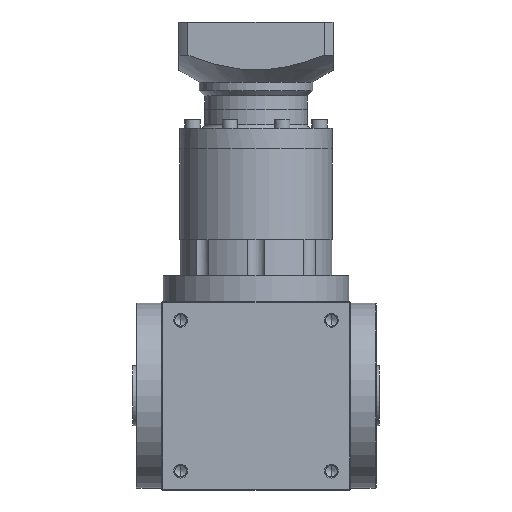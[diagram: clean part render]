
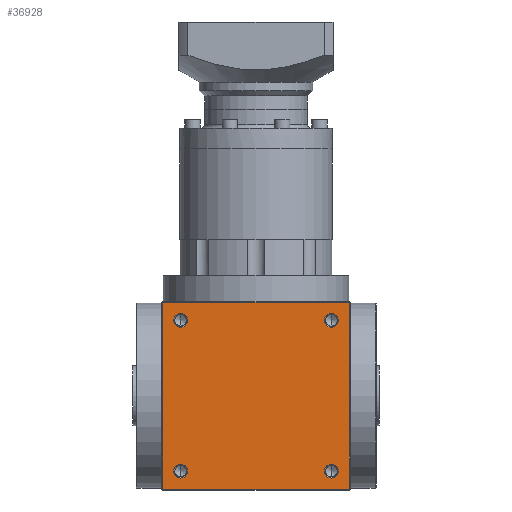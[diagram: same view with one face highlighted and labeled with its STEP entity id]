
A CAD part, front view. The second image highlights one B-rep face of the part: STEP entity #36928.
In plain terms, the highlighted planar face has unit normal (0, -1, 0).
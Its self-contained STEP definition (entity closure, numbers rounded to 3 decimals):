
#596 = VERTEX_POINT ( 'NONE', #33227 ) ;
#1373 = ORIENTED_EDGE ( 'NONE', *, *, #8380, .F. ) ;
#2115 = DIRECTION ( 'NONE',  ( 1., 0., 0. ) ) ;
#2199 = CARTESIAN_POINT ( 'NONE',  ( -44., -55., 11. ) ) ;
#2972 = CARTESIAN_POINT ( 'NONE',  ( 44., -55., 99. ) ) ;
#4351 = ORIENTED_EDGE ( 'NONE', *, *, #46008, .F. ) ;
#4616 = VERTEX_POINT ( 'NONE', #9927 ) ;
#4798 = CARTESIAN_POINT ( 'NONE',  ( 44., -55., 11. ) ) ;
#5175 = ORIENTED_EDGE ( 'NONE', *, *, #20689, .F. ) ;
#5972 = CIRCLE ( 'NONE', #22772, 4.025 ) ;
#6345 = CIRCLE ( 'NONE', #12029, 4.025 ) ;
#6417 = CARTESIAN_POINT ( 'NONE',  ( 48.025, -55., 99. ) ) ;
#6477 = DIRECTION ( 'NONE',  ( 1., 0., 0. ) ) ;
#6879 = LINE ( 'NONE', #42906, #16834 ) ;
#6988 = VERTEX_POINT ( 'NONE', #22325 ) ;
#7269 = DIRECTION ( 'NONE',  ( 1., 0., 0. ) ) ;
#7281 = EDGE_LOOP ( 'NONE', ( #14550, #52084 ) ) ;
#7447 = DIRECTION ( 'NONE',  ( 0., 0., 1. ) ) ;
#8109 = ORIENTED_EDGE ( 'NONE', *, *, #25065, .F. ) ;
#8380 = EDGE_CURVE ( 'NONE', #54054, #26745, #31153, .T. ) ;
#9083 = DIRECTION ( 'NONE',  ( 1., 0., 0. ) ) ;
#9207 = FACE_BOUND ( 'NONE', #21920, .T. ) ;
#9275 = CARTESIAN_POINT ( 'NONE',  ( 44., -55., 99. ) ) ;
#9302 = CARTESIAN_POINT ( 'NONE',  ( 54.5, -55., 0.5 ) ) ;
#9663 = AXIS2_PLACEMENT_3D ( 'NONE', #45834, #33025, #7447 ) ;
#9927 = CARTESIAN_POINT ( 'NONE',  ( 54.5, -55., 109.5 ) ) ;
#10347 = CARTESIAN_POINT ( 'NONE',  ( 39.975, -55., 11. ) ) ;
#10801 = EDGE_CURVE ( 'NONE', #36857, #47758, #28903, .T. ) ;
#10974 = VECTOR ( 'NONE', #32345, 1000. ) ;
#11292 = CARTESIAN_POINT ( 'NONE',  ( -54.5, -55., 0.5 ) ) ;
#11959 = EDGE_LOOP ( 'NONE', ( #8109, #24075 ) ) ;
#12029 = AXIS2_PLACEMENT_3D ( 'NONE', #4798, #34701, #9083 ) ;
#13317 = VERTEX_POINT ( 'NONE', #43133 ) ;
#13530 = DIRECTION ( 'NONE',  ( 1., 0., 0. ) ) ;
#14550 = ORIENTED_EDGE ( 'NONE', *, *, #21909, .F. ) ;
#14748 = CIRCLE ( 'NONE', #36714, 4.025 ) ;
#15093 = EDGE_CURVE ( 'NONE', #6988, #4616, #22298, .T. ) ;
#16491 = FACE_OUTER_BOUND ( 'NONE', #19265, .T. ) ;
#16683 = DIRECTION ( 'NONE',  ( 0., -1., 0. ) ) ;
#16834 = VECTOR ( 'NONE', #17164, 1000. ) ;
#17164 = DIRECTION ( 'NONE',  ( 0., 0., 1. ) ) ;
#17183 = EDGE_LOOP ( 'NONE', ( #4351, #54102 ) ) ;
#17692 = VERTEX_POINT ( 'NONE', #6417 ) ;
#17838 = FACE_BOUND ( 'NONE', #11959, .T. ) ;
#18719 = CARTESIAN_POINT ( 'NONE',  ( -48.025, -55., 11. ) ) ;
#18739 = AXIS2_PLACEMENT_3D ( 'NONE', #2972, #32846, #7269 ) ;
#19265 = EDGE_LOOP ( 'NONE', ( #39259, #36619, #1373, #33114 ) ) ;
#20402 = CARTESIAN_POINT ( 'NONE',  ( 44., -55., 11. ) ) ;
#20689 = EDGE_CURVE ( 'NONE', #47758, #36857, #6345, .T. ) ;
#20993 = CARTESIAN_POINT ( 'NONE',  ( -39.975, -55., 11. ) ) ;
#21423 = DIRECTION ( 'NONE',  ( -1., 0., 0. ) ) ;
#21424 = CIRCLE ( 'NONE', #18739, 4.025 ) ;
#21553 = CARTESIAN_POINT ( 'NONE',  ( -55., -55., 0.5 ) ) ;
#21650 = ORIENTED_EDGE ( 'NONE', *, *, #10801, .F. ) ;
#21909 = EDGE_CURVE ( 'NONE', #44791, #32222, #41025, .T. ) ;
#21920 = EDGE_LOOP ( 'NONE', ( #21650, #5175 ) ) ;
#22298 = LINE ( 'NONE', #45140, #10974 ) ;
#22325 = CARTESIAN_POINT ( 'NONE',  ( -54.5, -55., 109.5 ) ) ;
#22772 = AXIS2_PLACEMENT_3D ( 'NONE', #9275, #39216, #13530 ) ;
#23055 = DIRECTION ( 'NONE',  ( 0., 0., -1. ) ) ;
#23461 = AXIS2_PLACEMENT_3D ( 'NONE', #20402, #50378, #24701 ) ;
#24075 = ORIENTED_EDGE ( 'NONE', *, *, #53858, .F. ) ;
#24701 = DIRECTION ( 'NONE',  ( 1., 0., 0. ) ) ;
#25065 = EDGE_CURVE ( 'NONE', #17692, #596, #5972, .T. ) ;
#25338 = DIRECTION ( 'NONE',  ( 0., -1., 0. ) ) ;
#26745 = VERTEX_POINT ( 'NONE', #11292 ) ;
#27650 = DIRECTION ( 'NONE',  ( 0., -1., 0. ) ) ;
#27873 = FACE_BOUND ( 'NONE', #7281, .T. ) ;
#28728 = PLANE ( 'NONE',  #9663 ) ;
#28903 = CIRCLE ( 'NONE', #23461, 4.025 ) ;
#31153 = LINE ( 'NONE', #21553, #52633 ) ;
#32062 = DIRECTION ( 'NONE',  ( 0., -1., 0. ) ) ;
#32222 = VERTEX_POINT ( 'NONE', #18719 ) ;
#32345 = DIRECTION ( 'NONE',  ( 1., 0., 0. ) ) ;
#32557 = CARTESIAN_POINT ( 'NONE',  ( -48.025, -55., 99. ) ) ;
#32846 = DIRECTION ( 'NONE',  ( 0., -1., 0. ) ) ;
#33025 = DIRECTION ( 'NONE',  ( 0., 1., 0. ) ) ;
#33114 = ORIENTED_EDGE ( 'NONE', *, *, #33405, .F. ) ;
#33227 = CARTESIAN_POINT ( 'NONE',  ( 39.975, -55., 99. ) ) ;
#33405 = EDGE_CURVE ( 'NONE', #4616, #54054, #49784, .T. ) ;
#33554 = AXIS2_PLACEMENT_3D ( 'NONE', #53364, #27650, #2115 ) ;
#33620 = CIRCLE ( 'NONE', #55290, 4.025 ) ;
#34701 = DIRECTION ( 'NONE',  ( 0., -1., 0. ) ) ;
#36619 = ORIENTED_EDGE ( 'NONE', *, *, #43893, .F. ) ;
#36714 = AXIS2_PLACEMENT_3D ( 'NONE', #42428, #16683, #46707 ) ;
#36857 = VERTEX_POINT ( 'NONE', #45463 ) ;
#36928 = ADVANCED_FACE ( 'NONE', ( #9207, #17838, #39333, #27873, #16491 ), #28728, .F. ) ;
#39216 = DIRECTION ( 'NONE',  ( 0., -1., 0. ) ) ;
#39259 = ORIENTED_EDGE ( 'NONE', *, *, #15093, .F. ) ;
#39333 = FACE_BOUND ( 'NONE', #17183, .T. ) ;
#39758 = VECTOR ( 'NONE', #23055, 1000. ) ;
#40820 = CIRCLE ( 'NONE', #45032, 4.025 ) ;
#41025 = CIRCLE ( 'NONE', #33554, 4.025 ) ;
#41273 = EDGE_CURVE ( 'NONE', #32222, #44791, #33620, .T. ) ;
#42428 = CARTESIAN_POINT ( 'NONE',  ( -44., -55., 99. ) ) ;
#42906 = CARTESIAN_POINT ( 'NONE',  ( -54.5, -55., 110. ) ) ;
#43133 = CARTESIAN_POINT ( 'NONE',  ( -39.975, -55., 99. ) ) ;
#43893 = EDGE_CURVE ( 'NONE', #26745, #6988, #6879, .T. ) ;
#44482 = CARTESIAN_POINT ( 'NONE',  ( 54.5, -55., 110. ) ) ;
#44772 = EDGE_CURVE ( 'NONE', #53209, #13317, #14748, .T. ) ;
#44791 = VERTEX_POINT ( 'NONE', #20993 ) ;
#45032 = AXIS2_PLACEMENT_3D ( 'NONE', #51019, #25338, #55390 ) ;
#45140 = CARTESIAN_POINT ( 'NONE',  ( -55., -55., 109.5 ) ) ;
#45463 = CARTESIAN_POINT ( 'NONE',  ( 48.025, -55., 11. ) ) ;
#45834 = CARTESIAN_POINT ( 'NONE',  ( -55., -55., 110. ) ) ;
#46008 = EDGE_CURVE ( 'NONE', #13317, #53209, #40820, .T. ) ;
#46707 = DIRECTION ( 'NONE',  ( 1., 0., 0. ) ) ;
#47758 = VERTEX_POINT ( 'NONE', #10347 ) ;
#49784 = LINE ( 'NONE', #44482, #39758 ) ;
#50378 = DIRECTION ( 'NONE',  ( 0., -1., 0. ) ) ;
#51019 = CARTESIAN_POINT ( 'NONE',  ( -44., -55., 99. ) ) ;
#52084 = ORIENTED_EDGE ( 'NONE', *, *, #41273, .F. ) ;
#52633 = VECTOR ( 'NONE', #21423, 1000. ) ;
#53209 = VERTEX_POINT ( 'NONE', #32557 ) ;
#53364 = CARTESIAN_POINT ( 'NONE',  ( -44., -55., 11. ) ) ;
#53858 = EDGE_CURVE ( 'NONE', #596, #17692, #21424, .T. ) ;
#54054 = VERTEX_POINT ( 'NONE', #9302 ) ;
#54102 = ORIENTED_EDGE ( 'NONE', *, *, #44772, .F. ) ;
#55290 = AXIS2_PLACEMENT_3D ( 'NONE', #2199, #32062, #6477 ) ;
#55390 = DIRECTION ( 'NONE',  ( 1., 0., 0. ) ) ;
